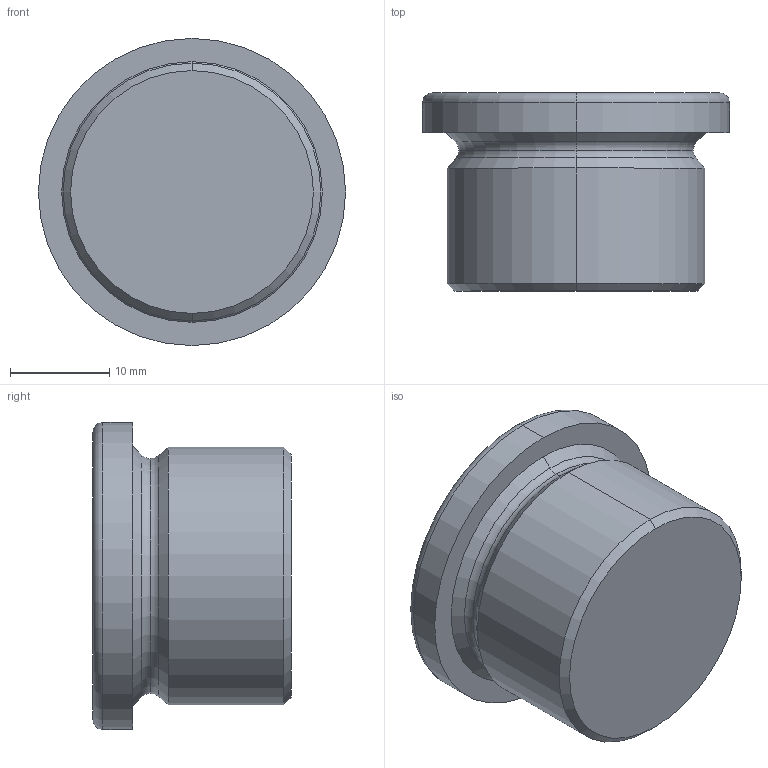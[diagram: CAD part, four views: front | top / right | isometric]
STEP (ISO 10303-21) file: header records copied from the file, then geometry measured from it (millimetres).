
FILE_DESCRIPTION (( 'STEP AP214' ), '1' );
FILE_NAME ('908-ST-M26x1,5-A.step', '2024-12-19T09:17:21', ( '' ), ( '' ), 'SwSTEP 2.0', 'SolidWorks 2022', '' );
FILE_SCHEMA (( 'AUTOMOTIVE_DESIGN' ));
Length unit declared in the file: millimetre
Products named in the file (1): 908-ST-M26x1,5-A
Bounding box: 31 x 20 x 31 mm (x, y, z)
Volume: 10154.8 mm3; surface area: 3542.1 mm2
Topology: 1 solids, 1 shells, 26 faces, 54 edges, 32 vertices
Faces by surface type: plane 10, torus 6, cone 6, cylinder 4
Entity records: 744 total; most frequent: DIRECTION 134, CARTESIAN_POINT 113, ORIENTED_EDGE 108, EDGE_CURVE 54, AXIS2_PLACEMENT_3D 53, VERTEX_POINT 32, LINE 28, VECTOR 28
